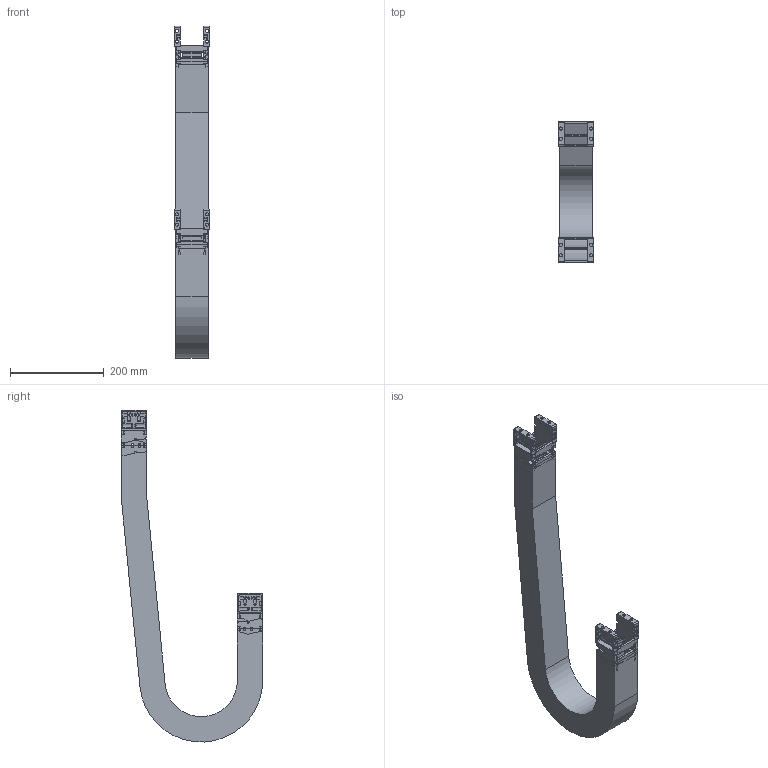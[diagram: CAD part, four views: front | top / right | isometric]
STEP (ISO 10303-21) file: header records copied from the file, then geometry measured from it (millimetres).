
FILE_DESCRIPTION((''),'2;1');
FILE_NAME('KST-40050-100_ASM','2017-12-06T',('KUNI004K'),(''),'PRO/ENGINEER BY PARAMETRIC TECHNOLOGY CORPORATION, 2015200','PRO/ENGINEER BY PARAMETRIC TECHNOLOGY CORPORATION, 2015200','');
FILE_SCHEMA(('AUTOMOTIVE_DESIGN { 1 0 10303 214 1 1 1 1 }'));
Length unit declared in the file: millimetre
Products named in the file (13): 40FBR; 40FBL; 40050C; KST40FB_W050_ASM; KST40100R; KST40100L; 40050H; KST40050-100_1_ASM; KST40050_R100_BODY; 40MBR; 40MBL; KST40MB_W050_ASM; KST-40050-100_ASM
Assembly tree (19 placements, depth 3):
  KST-40050-100_ASM
    KST40FB_W050_ASM
      40FBR
      40FBL
      40050C  x2
    KST40050-100_1_ASM  x2
      KST40100R
      KST40100L
      40050C
      40050H
    KST40050_R100_BODY
    KST40MB_W050_ASM
      40MBR
      40MBL
      40050C  x2
Bounding box: 76 x 301 x 706.39 mm (x, y, z)
Volume: 1814712.5 mm3; surface area: 609910.1 mm2
Topology: 21 solids, 21 shells, 2616 faces, 7102 edges, 4556 vertices
Faces by surface type: plane 1342, cylinder 906, bspline 304, torus 64
Entity records: 65841 total; most frequent: CARTESIAN_POINT 13408, ORIENTED_EDGE 7032, DIRECTION 6374, PRESENTATION_STYLE_ASSIGNMENT 4800, STYLED_ITEM 4800, CURVE_STYLE 3516, EDGE_CURVE 3516, VERTEX_POINT 2272
